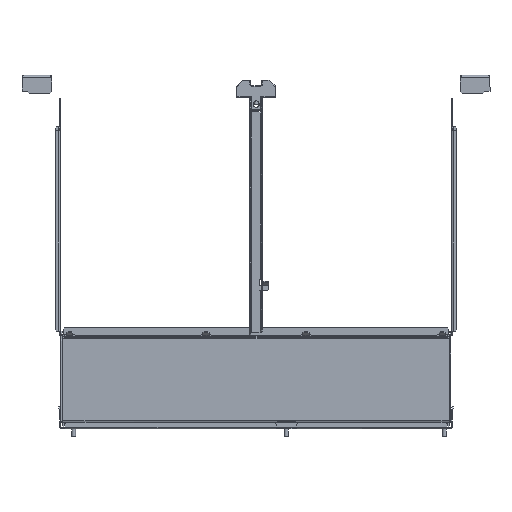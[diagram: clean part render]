
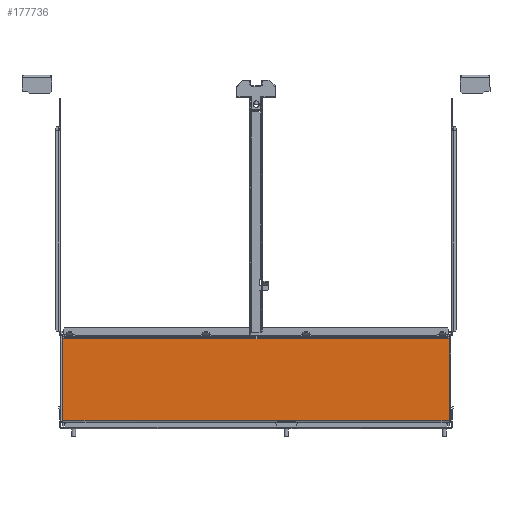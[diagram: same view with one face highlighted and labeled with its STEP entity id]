
A CAD part, front view. The second image highlights one B-rep face of the part: STEP entity #177736.
In plain terms, the highlighted planar face has unit normal (0, -1, 0).
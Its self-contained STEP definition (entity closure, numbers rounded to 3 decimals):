
#167066=CARTESIAN_POINT(' ',(-245.,-45.,0.6));
#167067=VERTEX_POINT(' ',#167066);
#170186=CARTESIAN_POINT(' ',(27.,-45.,0.6));
#170191=DIRECTION(' ',(-1.,0.,0.));
#170196=VECTOR(' ',#170191,1.);
#170201=LINE('',#170186,#170196);
#170206=CARTESIAN_POINT(' ',(27.,-45.,0.6));
#170207=VERTEX_POINT(' ',#170206);
#170211=EDGE_CURVE(' ',#170207,#167067,#170201,.T.);
#170331=CARTESIAN_POINT(' ',(50.,-45.,0.6));
#170332=VERTEX_POINT(' ',#170331);
#170386=CARTESIAN_POINT(' ',(245.,-45.,0.6));
#170387=VERTEX_POINT(' ',#170386);
#170401=CARTESIAN_POINT(' ',(245.,-45.,0.6));
#170406=DIRECTION(' ',(-1.,0.,0.));
#170411=VECTOR(' ',#170406,1.);
#170416=LINE('',#170401,#170411);
#170421=EDGE_CURVE(' ',#170387,#170332,#170416,.T.);
#171251=CARTESIAN_POINT(' ',(-245.,-45.,0.6));
#171256=DIRECTION(' ',(0.,0.,1.));
#171261=VECTOR(' ',#171256,1.);
#171266=LINE('',#171251,#171261);
#171271=CARTESIAN_POINT(' ',(-245.,-45.,104.4));
#171272=VERTEX_POINT(' ',#171271);
#171276=EDGE_CURVE(' ',#167067,#171272,#171266,.T.);
#177521=DIRECTION(' ',(-0.,-1.,0.));
#177526=CARTESIAN_POINT(' ',(-245.,-45.,0.6));
#177531=DIRECTION(' ',(1.,0.,-0.));
#177536=AXIS2_PLACEMENT_3D(' ',#177526,#177521,#177531);
#177541=PLANE('NONE',#177536);
#177546=CARTESIAN_POINT(' ',(27.,-45.,1.));
#177551=DIRECTION(' ',(0.,0.,-1.));
#177556=VECTOR(' ',#177551,1.);
#177561=LINE('',#177546,#177556);
#177566=CARTESIAN_POINT(' ',(27.,-45.,1.));
#177567=VERTEX_POINT(' ',#177566);
#177571=EDGE_CURVE(' ',#177567,#170207,#177561,.T.);
#177576=ORIENTED_EDGE(' ',*,*,#177571,.F.);
#177581=CARTESIAN_POINT(' ',(50.,-45.,1.));
#177586=DIRECTION(' ',(-1.,0.,0.));
#177591=VECTOR(' ',#177586,1.);
#177596=LINE('',#177581,#177591);
#177601=CARTESIAN_POINT(' ',(50.,-45.,1.));
#177602=VERTEX_POINT(' ',#177601);
#177606=EDGE_CURVE(' ',#177602,#177567,#177596,.T.);
#177611=ORIENTED_EDGE(' ',*,*,#177606,.F.);
#177616=CARTESIAN_POINT(' ',(50.,-45.,1.));
#177621=DIRECTION(' ',(0.,0.,-1.));
#177626=VECTOR(' ',#177621,1.);
#177631=LINE('',#177616,#177626);
#177636=EDGE_CURVE(' ',#177602,#170332,#177631,.T.);
#177641=ORIENTED_EDGE(' ',*,*,#177636,.T.);
#177646=ORIENTED_EDGE(' ',*,*,#170421,.F.);
#177651=CARTESIAN_POINT(' ',(245.,-45.,0.6));
#177656=DIRECTION(' ',(0.,0.,1.));
#177661=VECTOR(' ',#177656,1.);
#177666=LINE('',#177651,#177661);
#177671=CARTESIAN_POINT(' ',(245.,-45.,104.4));
#177672=VERTEX_POINT(' ',#177671);
#177676=EDGE_CURVE(' ',#170387,#177672,#177666,.T.);
#177681=ORIENTED_EDGE(' ',*,*,#177676,.T.);
#177686=CARTESIAN_POINT(' ',(245.,-45.,104.4));
#177691=DIRECTION(' ',(-1.,0.,0.));
#177696=VECTOR(' ',#177691,1.);
#177701=LINE('',#177686,#177696);
#177706=EDGE_CURVE(' ',#177672,#171272,#177701,.T.);
#177711=ORIENTED_EDGE(' ',*,*,#177706,.T.);
#177716=ORIENTED_EDGE(' ',*,*,#171276,.F.);
#177721=ORIENTED_EDGE(' ',*,*,#170211,.F.);
#177726=EDGE_LOOP(' ',(#177576,#177611,#177641,#177646,#177681,#177711,#177716,#177721));
#177731=FACE_OUTER_BOUND(' ',#177726,.T.);
#177736=ADVANCED_FACE('NONE',(#177731),#177541,.T.);
